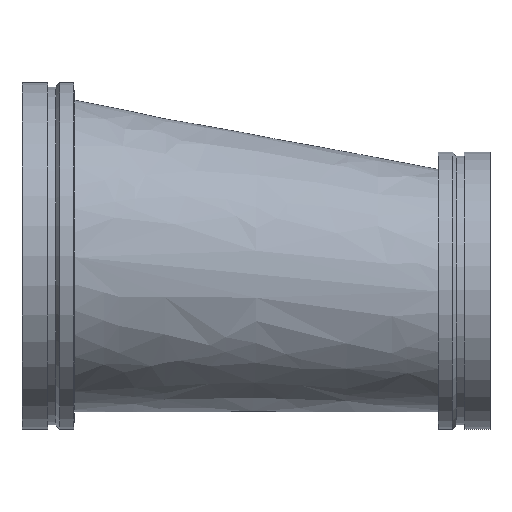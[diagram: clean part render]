
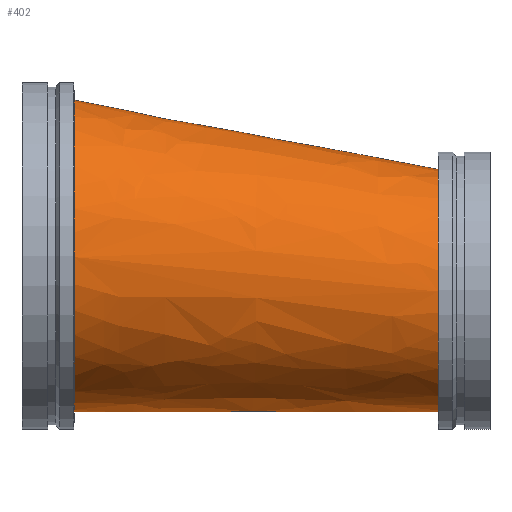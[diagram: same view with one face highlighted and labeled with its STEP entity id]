
A CAD part, top view. The second image highlights one B-rep face of the part: STEP entity #402.
In plain terms, the highlighted free-form (B-spline) face has degree [1, 2] with [2, 9] control points.
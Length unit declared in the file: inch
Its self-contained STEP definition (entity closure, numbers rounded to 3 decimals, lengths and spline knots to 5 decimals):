
#46=B_SPLINE_CURVE_WITH_KNOTS('',1,(#777,#778),.UNSPECIFIED.,.F.,.F.,(2,
2),(-2.35496,-0.00084),.UNSPECIFIED.);
#48=(
BOUNDED_SURFACE()
B_SPLINE_SURFACE(1,2,((#759,#760,#761,#762,#763,#764,#765,#766,#767),(#768,
#769,#770,#771,#772,#773,#774,#775,#776)),.UNSPECIFIED.,.F.,.T.,.F.)
B_SPLINE_SURFACE_WITH_KNOTS((2,2),(3,2,2,2,3),(-0.09439,2.42772),
(-3.14159,-1.5708,0.,1.5708,3.14159),
 .UNSPECIFIED.)
GEOMETRIC_REPRESENTATION_ITEM()
RATIONAL_B_SPLINE_SURFACE(((1.,0.707,1.,0.707,1.,
0.707,1.,0.707,1.),(1.,0.707,1.,0.707,
1.,0.707,1.,0.707,1.)))
REPRESENTATION_ITEM('')
SURFACE()
);
#98=FACE_OUTER_BOUND('',#120,.T.);
#120=EDGE_LOOP('',(#333,#334,#335,#336,#337,#338));
#129=CIRCLE('',#430,7.);
#130=CIRCLE('',#431,7.);
#153=CIRCLE('',#465,9.);
#154=CIRCLE('',#466,9.);
#169=VERTEX_POINT('',#652);
#170=VERTEX_POINT('',#653);
#193=VERTEX_POINT('',#719);
#194=VERTEX_POINT('',#720);
#209=EDGE_CURVE('',#169,#170,#129,.T.);
#210=EDGE_CURVE('',#170,#169,#130,.T.);
#241=EDGE_CURVE('',#193,#194,#153,.T.);
#242=EDGE_CURVE('',#194,#193,#154,.T.);
#252=EDGE_CURVE('',#170,#194,#46,.T.);
#333=ORIENTED_EDGE('',*,*,#209,.T.);
#334=ORIENTED_EDGE('',*,*,#252,.T.);
#335=ORIENTED_EDGE('',*,*,#242,.T.);
#336=ORIENTED_EDGE('',*,*,#241,.T.);
#337=ORIENTED_EDGE('',*,*,#252,.F.);
#338=ORIENTED_EDGE('',*,*,#210,.T.);
#402=ADVANCED_FACE('',(#98),#48,.F.);
#430=AXIS2_PLACEMENT_3D('',#654,#504,#505);
#431=AXIS2_PLACEMENT_3D('',#655,#506,#507);
#465=AXIS2_PLACEMENT_3D('',#721,#582,#583);
#466=AXIS2_PLACEMENT_3D('',#722,#584,#585);
#504=DIRECTION('center_axis',(-1.,0.,0.));
#505=DIRECTION('ref_axis',(0.,-1.,0.));
#506=DIRECTION('center_axis',(-1.,0.,0.));
#507=DIRECTION('ref_axis',(0.,-1.,0.));
#582=DIRECTION('center_axis',(1.,0.,0.));
#583=DIRECTION('ref_axis',(0.,1.,0.));
#584=DIRECTION('center_axis',(1.,0.,0.));
#585=DIRECTION('ref_axis',(0.,1.,0.));
#652=CARTESIAN_POINT('',(24.,-9.,0.));
#653=CARTESIAN_POINT('',(24.,-2.06237,6.99972));
#654=CARTESIAN_POINT('Origin',(24.,-2.,0.));
#655=CARTESIAN_POINT('Origin',(24.,-2.,0.));
#719=CARTESIAN_POINT('',(3.,9.,0.));
#720=CARTESIAN_POINT('',(3.,-0.08018,8.99964));
#721=CARTESIAN_POINT('Origin',(3.,0.,0.));
#722=CARTESIAN_POINT('Origin',(3.,0.,0.));
#759=CARTESIAN_POINT('Ctrl Pts',(2.15049,0.,9.08054));
#760=CARTESIAN_POINT('Ctrl Pts',(1.30099,-9.,9.08054));
#761=CARTESIAN_POINT('Ctrl Pts',(1.30099,-9.,0.));
#762=CARTESIAN_POINT('Ctrl Pts',(1.30099,-9.,-9.08054));
#763=CARTESIAN_POINT('Ctrl Pts',(2.15049,0.,
-9.08054));
#764=CARTESIAN_POINT('Ctrl Pts',(3.,9.,-9.08054));
#765=CARTESIAN_POINT('Ctrl Pts',(3.,9.,0.));
#766=CARTESIAN_POINT('Ctrl Pts',(3.,9.,9.08054));
#767=CARTESIAN_POINT('Ctrl Pts',(2.15049,0.,9.08054));
#768=CARTESIAN_POINT('Ctrl Pts',(24.64906,-2.12363,6.93791));
#769=CARTESIAN_POINT('Ctrl Pts',(24.,-9.,6.93791));
#770=CARTESIAN_POINT('Ctrl Pts',(24.,-9.,0.));
#771=CARTESIAN_POINT('Ctrl Pts',(24.,-9.,-6.93791));
#772=CARTESIAN_POINT('Ctrl Pts',(24.64906,-2.12363,-6.93791));
#773=CARTESIAN_POINT('Ctrl Pts',(25.29812,4.75274,-6.93791));
#774=CARTESIAN_POINT('Ctrl Pts',(25.29812,4.75274,0.));
#775=CARTESIAN_POINT('Ctrl Pts',(25.29812,4.75274,6.93791));
#776=CARTESIAN_POINT('Ctrl Pts',(24.64906,-2.12363,6.93791));
#777=CARTESIAN_POINT('Ctrl Pts',(24.,-2.06237,6.99972));
#778=CARTESIAN_POINT('Ctrl Pts',(3.,-0.08018,8.99964));
